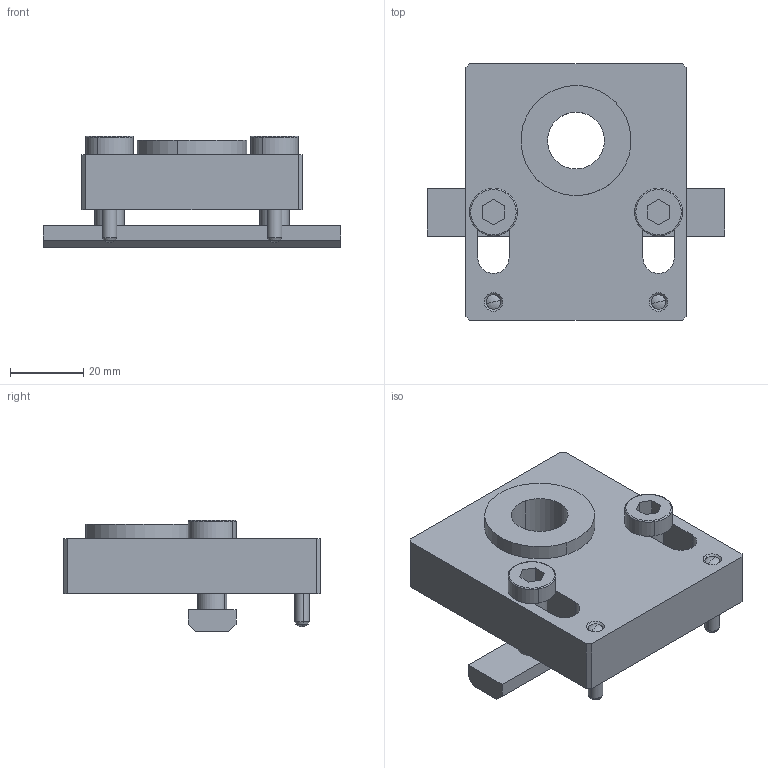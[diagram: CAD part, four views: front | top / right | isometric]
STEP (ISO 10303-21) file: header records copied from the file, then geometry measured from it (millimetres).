
FILE_DESCRIPTION (( 'STEP AP203' ), '1' );
FILE_NAME ('900.400.107.STEP', '2018-02-27T08:07:52', ( '' ), ( '' ), 'SwSTEP 2.0', 'SolidWorks 2016', '' );
FILE_SCHEMA (( 'CONFIG_CONTROL_DESIGN' ));
Length unit declared in the file: millimetre
Products named in the file (6): BUSSOLE CON COLLARE DIN 172 CORTE_D.26; 900.400.107; 900.400.107-L; 084.301.000 VITI ALUSIC_084.301.004; 084.302.016; SPINE CILINDRICHE A UNI 6364-68_A 4x24 UNI 6364-68
Assembly tree (7 placements, depth 2):
  900.400.107
    900.400.107-L
    BUSSOLE CON COLLARE DIN 172 CORTE_D.26
    084.301.000 VITI ALUSIC_084.301.004  x2
    SPINE CILINDRICHE A UNI 6364-68_A 4x24 UNI 6364-68  x2
    084.302.016
Bounding box: 81 x 70 x 30.3 mm (x, y, z)
Volume: 65570.3 mm3; surface area: 22944.1 mm2
Topology: 7 solids, 7 shells, 105 faces, 240 edges, 150 vertices
Faces by surface type: plane 45, cylinder 34, cone 14, torus 8, sphere 4
Entity records: 2988 total; most frequent: DIRECTION 436, CARTESIAN_POINT 391, ORIENTED_EDGE 368, EDGE_CURVE 184, AXIS2_PLACEMENT_3D 163, VERTEX_POINT 118, VECTOR 110, LINE 110
